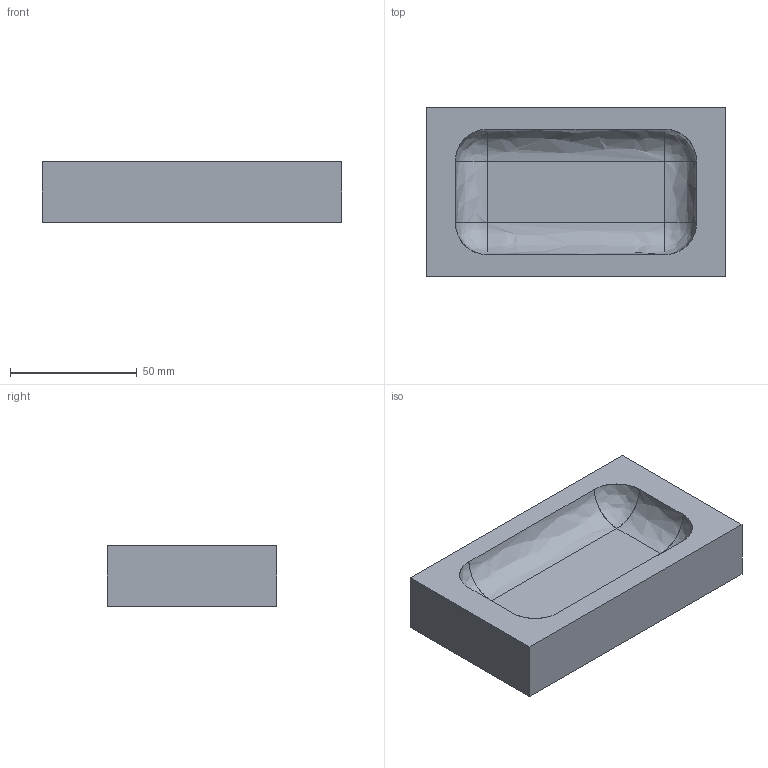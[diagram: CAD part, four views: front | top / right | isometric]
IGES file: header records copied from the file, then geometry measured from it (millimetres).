
Global section: file name: C:\Users\ronysch.boss\Documents\fabacademy_2017\week_14\rony_18.igs; native system: Rhinoceros ( Jun  9 2014 ); preprocessor: Trout Lake IGES 012 Jun  9 2014; date: 170505.082459; units: millimetre
Bounding box: 118.45 x 66.99 x 24 mm (x, y, z)
Surface area: 26628 mm2 (no closed solid volume)
Topology: 0 solids, 0 shells, 15 faces, 98 edges, 94 vertices
Faces by surface type: bspline 15
